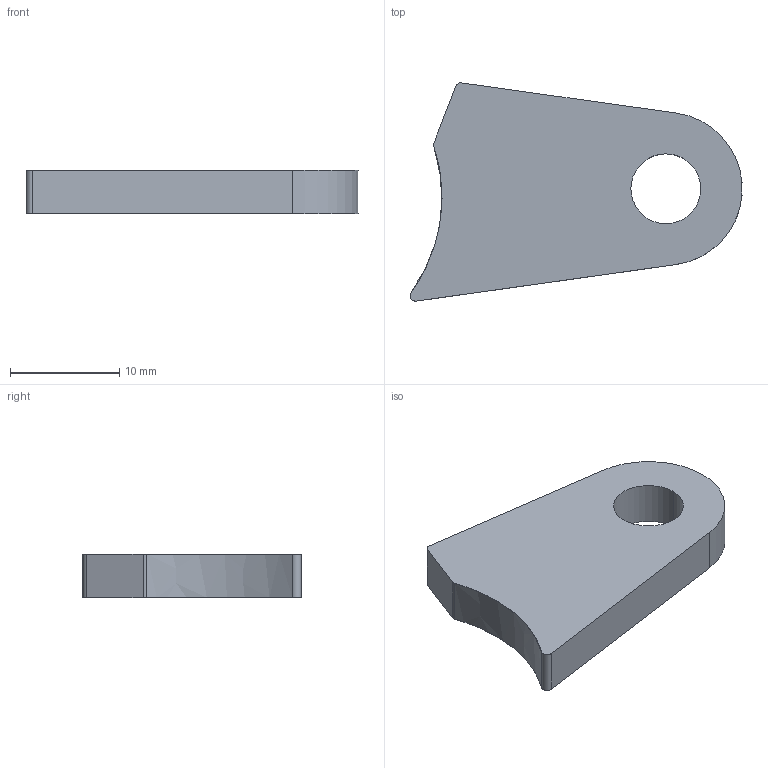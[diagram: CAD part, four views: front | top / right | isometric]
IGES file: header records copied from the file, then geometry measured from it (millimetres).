
Start section: START RECORD GO HERE.
Global section: file name: 20M_FL_RD.igs; native system: IBM CATIA IGES - CATIA Version 5 Release 19 ; preprocessor: CATIA Version 5 Release 19 ; author: alexb; organization: LAPTOP-PR6NE7IP; date: 20191216.211106; units: millimetre
Bounding box: 30.4 x 19.99 x 4 mm (x, y, z)
Surface area: 1229.2 mm2 (no closed solid volume)
Topology: 0 solids, 0 shells, 12 faces, 60 edges, 62 vertices
Faces by surface type: revolution 6, plane 4, extrusion 2
